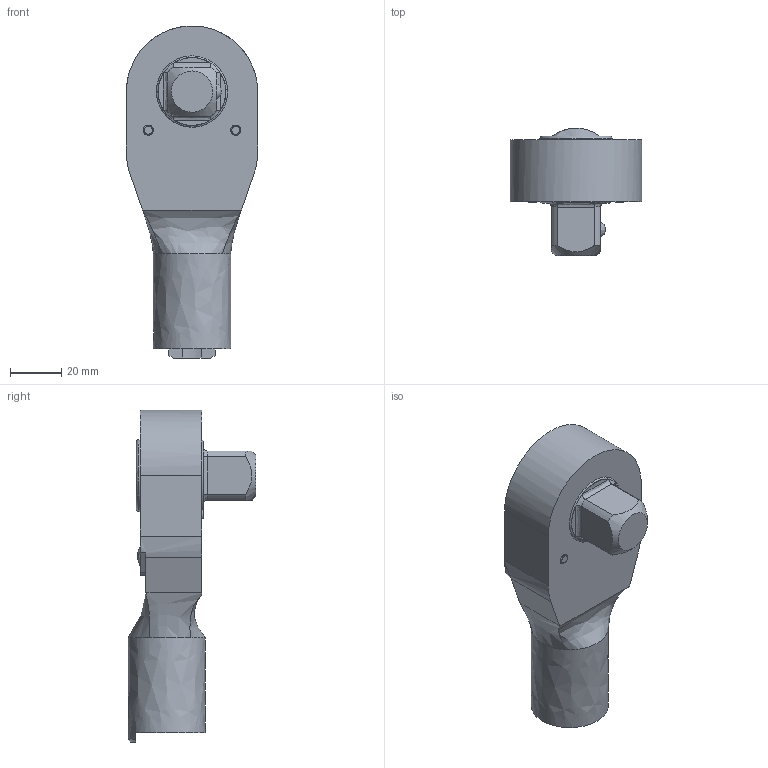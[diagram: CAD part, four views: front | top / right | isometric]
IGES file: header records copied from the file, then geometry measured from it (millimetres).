
Global section: file name: QH22D; native system: Autodesk Inventor 2016; preprocessor: unknown; author: Q600; date: 20151016.164420; units: millimetre
Bounding box: 51 x 49.68 x 128.97 mm (x, y, z)
Volume: 112694.2 mm3; surface area: 20039.6 mm2
Topology: 1 solids, 1 shells, 90 faces, 258 edges, 171 vertices
Faces by surface type: bspline 90
